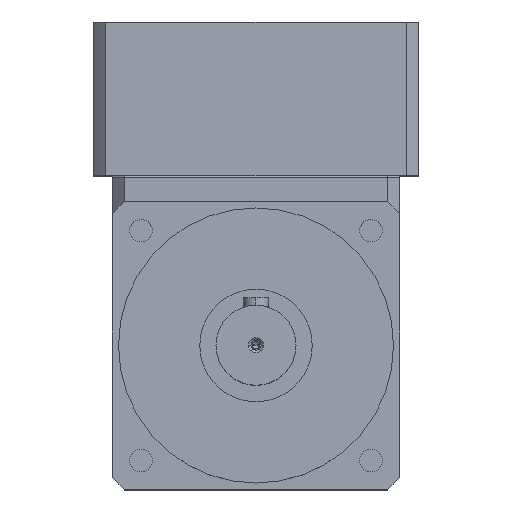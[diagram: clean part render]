
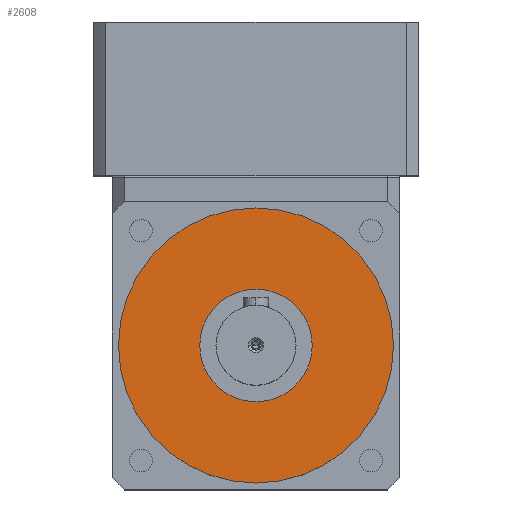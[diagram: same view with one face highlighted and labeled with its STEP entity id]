
A CAD part, top view. The second image highlights one B-rep face of the part: STEP entity #2608.
In plain terms, the highlighted planar face has unit normal (0, 0, 1).
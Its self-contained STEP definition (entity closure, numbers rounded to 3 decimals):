
#90 = AXIS2_PLACEMENT_3D ( 'NONE', #1724, #440, #3719 ) ;
#101 = CIRCLE ( 'NONE', #3133, 55. ) ;
#402 = CARTESIAN_POINT ( 'NONE',  ( 55., 0., 12. ) ) ;
#409 = CARTESIAN_POINT ( 'NONE',  ( 0., 0., 12. ) ) ;
#440 = DIRECTION ( 'NONE',  ( 0., 0., -1. ) ) ;
#588 = ORIENTED_EDGE ( 'NONE', *, *, #4439, .T. ) ;
#597 = DIRECTION ( 'NONE',  ( 0., 0., -1. ) ) ;
#621 = DIRECTION ( 'NONE',  ( 0., 0., -1. ) ) ;
#638 = VERTEX_POINT ( 'NONE', #800 ) ;
#733 = CARTESIAN_POINT ( 'NONE',  ( 0., 0., 12. ) ) ;
#763 = CARTESIAN_POINT ( 'NONE',  ( -55., 0., 12. ) ) ;
#773 = EDGE_CURVE ( 'NONE', #1497, #3890, #3292, .T. ) ;
#782 = ORIENTED_EDGE ( 'NONE', *, *, #773, .F. ) ;
#800 = CARTESIAN_POINT ( 'NONE',  ( -22.5, 0., 12. ) ) ;
#947 = EDGE_LOOP ( 'NONE', ( #782, #3242 ) ) ;
#1021 = CIRCLE ( 'NONE', #90, 22.5 ) ;
#1289 = DIRECTION ( 'NONE',  ( 0., 0., -1. ) ) ;
#1409 = DIRECTION ( 'NONE',  ( -1., 0., 0. ) ) ;
#1453 = AXIS2_PLACEMENT_3D ( 'NONE', #409, #1289, #1409 ) ;
#1497 = VERTEX_POINT ( 'NONE', #763 ) ;
#1561 = FACE_OUTER_BOUND ( 'NONE', #947, .T. ) ;
#1671 = CARTESIAN_POINT ( 'NONE',  ( 22.5, 0., 12. ) ) ;
#1724 = CARTESIAN_POINT ( 'NONE',  ( 0., 0., 12. ) ) ;
#1865 = CARTESIAN_POINT ( 'NONE',  ( 0., 0., 12. ) ) ;
#1936 = EDGE_LOOP ( 'NONE', ( #588, #2920 ) ) ;
#2555 = PLANE ( 'NONE',  #1453 ) ;
#2608 = ADVANCED_FACE ( 'NONE', ( #4448, #1561 ), #2555, .F. ) ;
#2920 = ORIENTED_EDGE ( 'NONE', *, *, #4501, .T. ) ;
#3002 = DIRECTION ( 'NONE',  ( 0., 0., -1. ) ) ;
#3089 = VERTEX_POINT ( 'NONE', #1671 ) ;
#3133 = AXIS2_PLACEMENT_3D ( 'NONE', #3363, #621, #3313 ) ;
#3242 = ORIENTED_EDGE ( 'NONE', *, *, #4206, .F. ) ;
#3292 = CIRCLE ( 'NONE', #3361, 55. ) ;
#3313 = DIRECTION ( 'NONE',  ( -1., 0., 0. ) ) ;
#3361 = AXIS2_PLACEMENT_3D ( 'NONE', #1865, #3002, #4144 ) ;
#3363 = CARTESIAN_POINT ( 'NONE',  ( 0., 0., 12. ) ) ;
#3448 = DIRECTION ( 'NONE',  ( -1., 0., 0. ) ) ;
#3719 = DIRECTION ( 'NONE',  ( -1., 0., 0. ) ) ;
#3890 = VERTEX_POINT ( 'NONE', #402 ) ;
#4017 = CIRCLE ( 'NONE', #4337, 22.5 ) ;
#4144 = DIRECTION ( 'NONE',  ( -1., 0., 0. ) ) ;
#4206 = EDGE_CURVE ( 'NONE', #3890, #1497, #101, .T. ) ;
#4337 = AXIS2_PLACEMENT_3D ( 'NONE', #733, #597, #3448 ) ;
#4439 = EDGE_CURVE ( 'NONE', #638, #3089, #4017, .T. ) ;
#4448 = FACE_BOUND ( 'NONE', #1936, .T. ) ;
#4501 = EDGE_CURVE ( 'NONE', #3089, #638, #1021, .T. ) ;
